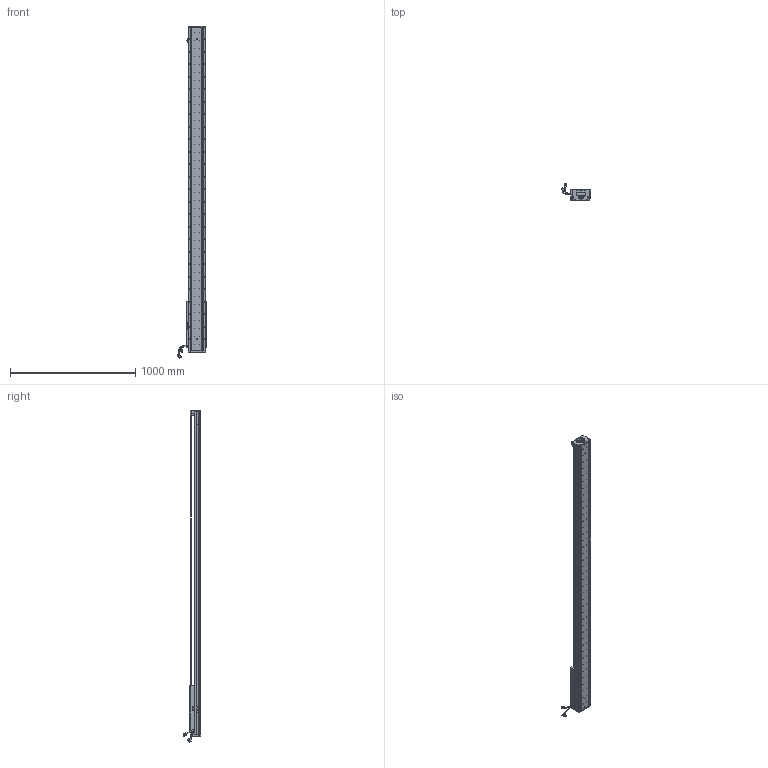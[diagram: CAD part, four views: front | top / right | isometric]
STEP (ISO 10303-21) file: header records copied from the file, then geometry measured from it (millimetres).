
FILE_DESCRIPTION (( 'STEP AP203' ), '1' );
FILE_NAME ('Z5-RY140D-1-L500-B-K.SLDASM_2150.step', '2021-05-17T08:39:00', ( '盈信电脑' ), ( '东莞市道滘镇水果街19号' ), 'SwSTEP 2.0', 'SolidWorks 2016', '' );
FILE_SCHEMA (( 'CONFIG_CONTROL_DESIGN' ));
Length unit declared in the file: millimetre
Products named in the file (36): SCREW-M1.7-1; SCALE-Part-1; Z-RY140感应器672光电感应片; SCREW-M1.7; LABEL-Part-1; HARNESS; SCALE; SCALE-Part-2; 詩湍奻揤裔; 榋妏寠巭燃_暯_M2_2; HOLDER0; HARNESS-Part-2; COVER-Part-1; SEAL-Part-1; Z5-RY140-L500詩湍100mm遵_2150; LABEL; COVER; 140-Z-臏賑輸盄裔(21遴); SCREW-M1.6-2; Z5-RY140-L500直线电机模组底座_2150; SCREW-M1.6; Z-140詩湍傷裔啣; SCREW-M1.6-3; PSLH080_PSLF2; Z5-RY140圉猾敕臏賑輸(21遴); SHIELDPLATE; 140雄赽晤鎢ん堤盄; 080黍杅芛假蚾釱21遴; PBU_SHEET; 詩湍狟揤裔; 覜茼ん672; HARNESS-Part-1; Z5-RY140D-1-L500-B-K.SLDASM_2150; SEAL; 140蚥薯蝶輸; SCREW-M1.6-1
Assembly tree (41 placements, depth 4):
  Z5-RY140D-1-L500-B-K.SLDASM_2150
    Z5-RY140-L500直线电机模组底座_2150
    Z-RY140感应器672光电感应片
    Z5-RY140圉猾敕臏賑輸(21遴)
    覜茼ん672  x3
    Z5-RY140-L500詩湍100mm遵_2150
    PSLH080_PSLF2
      SCALE
        SCALE-Part-1
        SCALE-Part-2
      HARNESS
        HARNESS-Part-1
        HARNESS-Part-2
      LABEL
        LABEL-Part-1
      COVER
        COVER-Part-1
      SEAL
        SEAL-Part-1
      榋妏寠巭燃_暯_M2_2
      SHIELDPLATE
      SCREW-M1.7
      SCREW-M1.7-1
      PBU_SHEET
      SCREW-M1.6
      SCREW-M1.6-1
      SCREW-M1.6-2
      SCREW-M1.6-3
      HOLDER0
    080黍杅芛假蚾釱21遴
    140-Z-臏賑輸盄裔(21遴)
    Z-140詩湍傷裔啣  x2
    詩湍狟揤裔  x2
    詩湍奻揤裔  x2
    140蚥薯蝶輸  x2
    140雄赽晤鎢ん堤盄
Bounding box: 239.79 x 143.88 x 2655.87 mm (x, y, z)
Volume: 8910384.5 mm3; surface area: 2279887.9 mm2
Topology: 36 solids, 36 shells, 4128 faces, 11208 edges, 7101 vertices
Faces by surface type: cylinder 2238, plane 1366, cone 402, torus 69, bspline 53
Entity records: 130580 total; most frequent: CARTESIAN_POINT 36481, ORIENTED_EDGE 19336, DIRECTION 18052, EDGE_CURVE 9668, AXIS2_PLACEMENT_3D 6736, VERTEX_POINT 6269, VECTOR 4580, LINE 4580
